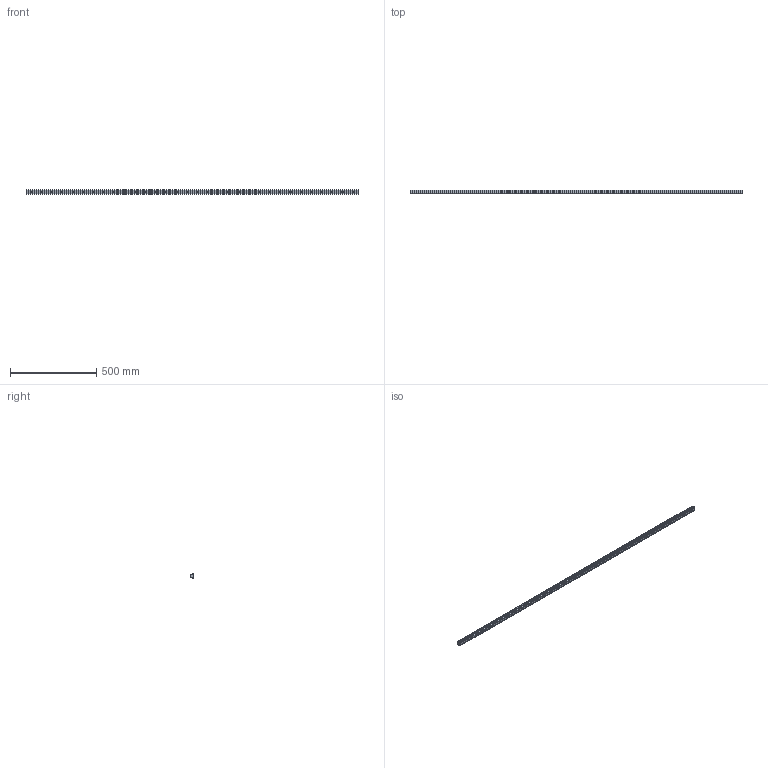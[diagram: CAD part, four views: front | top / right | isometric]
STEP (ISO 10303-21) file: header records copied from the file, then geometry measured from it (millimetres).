
FILE_DESCRIPTION (( 'STEP AP203' ), '1' );
FILE_NAME ('L1018.25R-1920.step', '2023-08-06T10:39:32', ( '' ), ( '' ), 'SwSTEP 2.0', 'SolidWorks 2019', '' );
FILE_SCHEMA (( 'CONFIG_CONTROL_DESIGN' ));
Length unit declared in the file: millimetre
Products named in the file (1): L1018.25R-1920
Bounding box: 1920 x 21.8 x 25 mm (x, y, z)
Volume: 798505.2 mm3; surface area: 191501.1 mm2
Topology: 1 solids, 1 shells, 317 faces, 721 edges, 406 vertices
Faces by surface type: cylinder 131, cone 128, plane 58
Entity records: 8486 total; most frequent: DIRECTION 1619, CARTESIAN_POINT 1381, ORIENTED_EDGE 1314, EDGE_CURVE 657, AXIS2_PLACEMENT_3D 644, VERTEX_POINT 406, EDGE_LOOP 381, VECTOR 331
